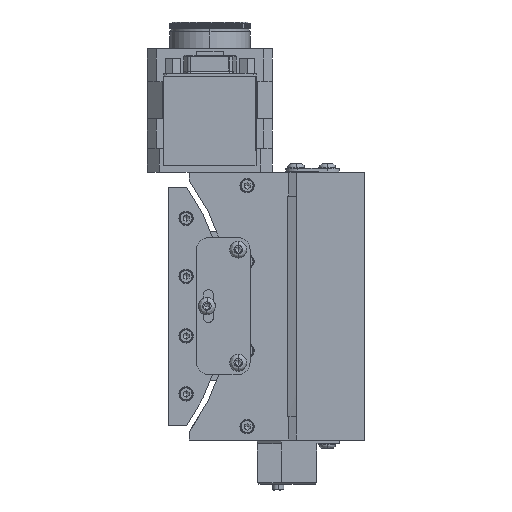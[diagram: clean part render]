
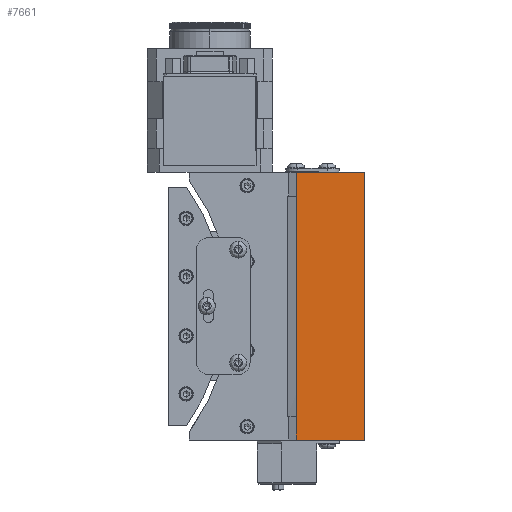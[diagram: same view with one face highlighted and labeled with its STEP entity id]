
A CAD part, left-side view. The second image highlights one B-rep face of the part: STEP entity #7661.
In plain terms, the highlighted planar face has unit normal (-1, 0, 0).
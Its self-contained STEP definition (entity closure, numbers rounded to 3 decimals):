
#7539 = ORIENTED_EDGE ( 'NONE', *, *, #7578, .T. ) ;
#7543 = ORIENTED_EDGE ( 'NONE', *, *, #7748, .F. ) ;
#7572 = VERTEX_POINT ( 'NONE', #12944 ) ;
#7578 = EDGE_CURVE ( 'NONE', #7583, #7572, #12938, .T. ) ;
#7583 = VERTEX_POINT ( 'NONE', #12922 ) ;
#7661 = ADVANCED_FACE ( 'NONE', ( #13063 ), #13060, .T. ) ;
#7665 = EDGE_LOOP ( 'NONE', ( #7671, #7682, #7539, #7543 ) ) ;
#7671 = ORIENTED_EDGE ( 'NONE', *, *, #7672, .T. ) ;
#7672 = EDGE_CURVE ( 'NONE', #7674, #7675, #13036, .T. ) ;
#7674 = VERTEX_POINT ( 'NONE', #13030 ) ;
#7675 = VERTEX_POINT ( 'NONE', #13027 ) ;
#7682 = ORIENTED_EDGE ( 'NONE', *, *, #7683, .F. ) ;
#7683 = EDGE_CURVE ( 'NONE', #7583, #7675, #13154, .T. ) ;
#7748 = EDGE_CURVE ( 'NONE', #7674, #7572, #13181, .T. ) ;
#12922 = CARTESIAN_POINT ( 'NONE',  ( 0., 24.21, -8. ) ) ;
#12933 = DIRECTION ( 'NONE',  ( 0., -1., 0. ) ) ;
#12935 = VECTOR ( 'NONE', #12933, 1000. ) ;
#12937 = CARTESIAN_POINT ( 'NONE',  ( 0., 24.21, -8. ) ) ;
#12938 = LINE ( 'NONE', #12937, #12935 ) ;
#12944 = CARTESIAN_POINT ( 'NONE',  ( 0., 1.21, -8. ) ) ;
#13027 = CARTESIAN_POINT ( 'NONE',  ( 0., 24.21, 82. ) ) ;
#13030 = CARTESIAN_POINT ( 'NONE',  ( 0., 1.21, 82. ) ) ;
#13032 = DIRECTION ( 'NONE',  ( 0., 1., 0. ) ) ;
#13033 = VECTOR ( 'NONE', #13032, 1000. ) ;
#13035 = CARTESIAN_POINT ( 'NONE',  ( 0., 12.21, 82. ) ) ;
#13036 = LINE ( 'NONE', #13035, #13033 ) ;
#13050 = DIRECTION ( 'NONE',  ( 0., -1., 0. ) ) ;
#13052 = DIRECTION ( 'NONE',  ( -1., 0., 0. ) ) ;
#13054 = CARTESIAN_POINT ( 'NONE',  ( 0., 24.21, 0. ) ) ;
#13055 = AXIS2_PLACEMENT_3D ( 'NONE', #13054, #13052, #13050 ) ;
#13060 = PLANE ( 'NONE',  #13055 ) ;
#13063 = FACE_OUTER_BOUND ( 'NONE', #7665, .T. ) ;
#13149 = DIRECTION ( 'NONE',  ( 0., 0., 1. ) ) ;
#13150 = VECTOR ( 'NONE', #13149, 1000. ) ;
#13152 = CARTESIAN_POINT ( 'NONE',  ( 0., 24.21, 0. ) ) ;
#13154 = LINE ( 'NONE', #13152, #13150 ) ;
#13177 = DIRECTION ( 'NONE',  ( 0., 0., -1. ) ) ;
#13178 = VECTOR ( 'NONE', #13177, 1000. ) ;
#13180 = CARTESIAN_POINT ( 'NONE',  ( 0., 1.21, 0. ) ) ;
#13181 = LINE ( 'NONE', #13180, #13178 ) ;
